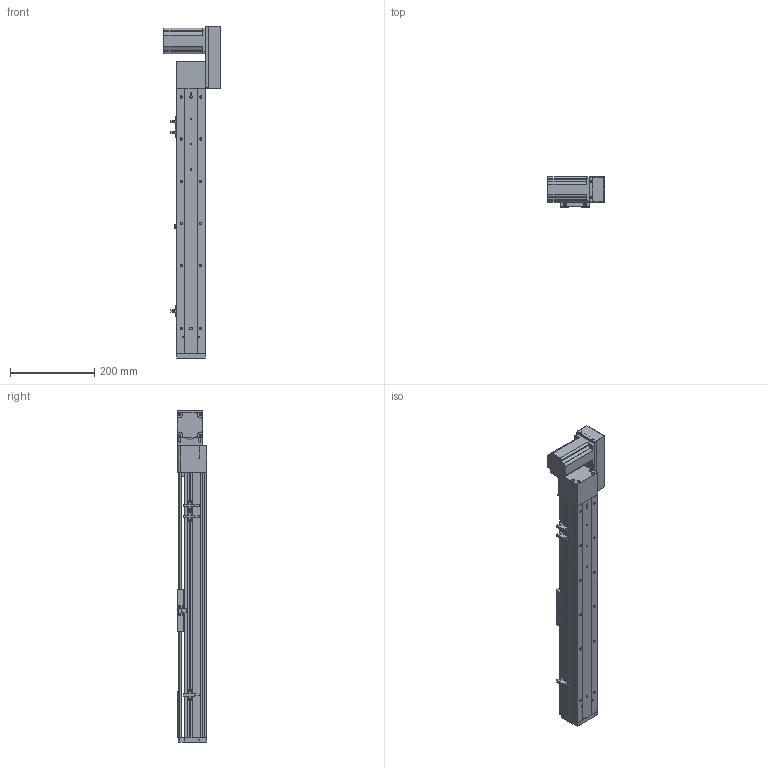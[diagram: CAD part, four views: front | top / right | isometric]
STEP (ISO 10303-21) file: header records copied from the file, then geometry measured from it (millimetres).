
FILE_DESCRIPTION (( 'STEP AP203' ), '1' );
FILE_NAME ('ML68-S450-CL.STEP', '2016-08-04T11:49:32', ( '' ), ( '' ), 'SwSTEP 2.0', 'SolidWorks 2014', '' );
FILE_SCHEMA (( 'CONFIG_CONTROL_DESIGN' ));
Length unit declared in the file: millimetre
Products named in the file (12): 60換覜結え; QS68左右折电机板罩子; ML68雄赽釱; ML68滅鳥啣盓傅輸媼; ML68傷啣; ML68菁釱^ML68-S450-CL; QS68酘衵殏萇儂啣; ML68奻裔^ML68-S450-CL; ML68-S450-CL; 換覜ん; ML68-BR傷啣; 三协电机MH201N2_預設
Assembly tree (13 placements, depth 2):
  ML68-S450-CL
    ML68菁釱^ML68-S450-CL
    ML68奻裔^ML68-S450-CL
    60換覜結え
    ML68-BR傷啣
    換覜ん  x3
    ML68傷啣
    三协电机MH201N2_預設
    ML68雄赽釱
    QS68酘衵殏萇儂啣
    QS68左右折电机板罩子
    ML68滅鳥啣盓傅輸媼
Bounding box: 133.5 x 70.5 x 788.5 mm (x, y, z)
Volume: 1488740.3 mm3; surface area: 535701.8 mm2
Topology: 13 solids, 13 shells, 885 faces, 2422 edges, 1539 vertices
Faces by surface type: cylinder 402, plane 391, cone 92
Entity records: 27978 total; most frequent: CARTESIAN_POINT 5278, DIRECTION 4588, ORIENTED_EDGE 4352, EDGE_CURVE 2176, AXIS2_PLACEMENT_3D 1653, VERTEX_POINT 1427, VECTOR 1282, LINE 1282
